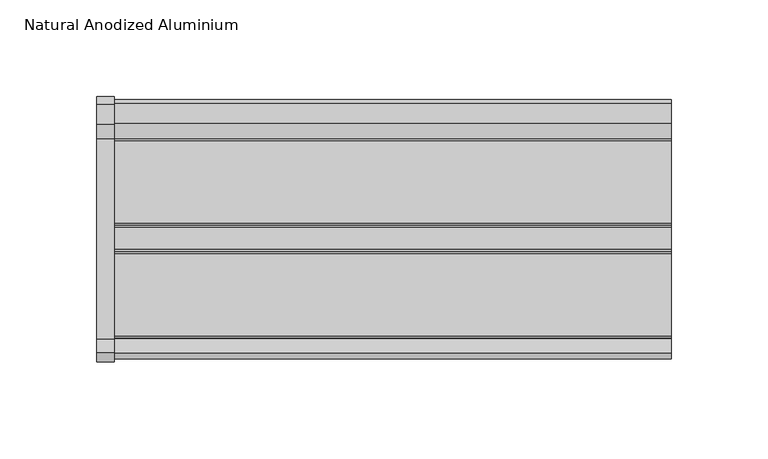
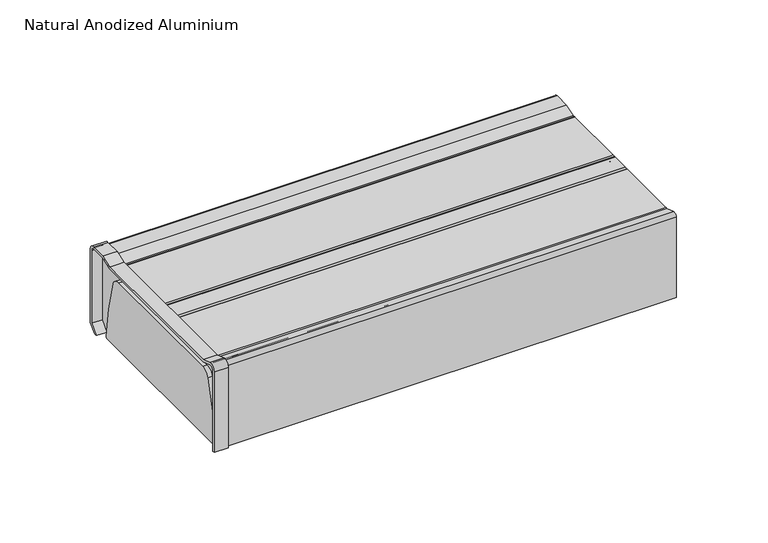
"""IFC4 building model written with IfcOpenShell, lengths in millimetres: proxy geometry, Electrical_Installations_Hager_GBA-Flat-Lid-End-Cap : Natural Anodized Aluminium."""

import ifcopenshell
import ifcopenshell.guid

model = None  # the IFC model being written
_history = None  # IfcOwnerHistory: only IFC2X3 demands one
_inside = {}  # id of a spatial element -> (the spatial element, [elements in it])
_under = {}  # id of a project, library or spatial element -> (it, [spatial elements below it])
_declared = {}  # id of a project -> (the project, [libraries it declares])
_typed = {}  # id of a type object -> (the type object, [elements of that type])
_made_of = {}  # id of a material, layer set ... -> (it, [elements and type objects made of it])


def new_model(schema):
    """Start an empty IFC model of exactly this schema.

    Asked for "IFC4X3", IfcOpenShell would pick the latest addendum, in which some entities
    have other attributes; the version numbers below select the first issue.
    IFC2X3 requires an IfcOwnerHistory on every rooted entity: one is made here for all.
    """
    global model, _history
    if schema == "IFC4X3":
        model = ifcopenshell.file(schema_version=(4, 3, 0, 0))
    else:
        model = ifcopenshell.file(schema=schema)
    _inside.clear()
    _under.clear()
    _declared.clear()
    _typed.clear()
    _made_of.clear()
    _history = None
    if model.schema == "IFC2X3":
        org = make("IfcOrganization", Name="unknown")
        user = make(
            "IfcPersonAndOrganization",
            ThePerson=make("IfcPerson", FamilyName="unknown"),
            TheOrganization=org,
        )
        app = make(
            "IfcApplication",
            ApplicationDeveloper=org,
            Version="unknown",
            ApplicationFullName="unknown",
            ApplicationIdentifier="unknown",
        )
        _history = make(
            "IfcOwnerHistory",
            OwningUser=user,
            OwningApplication=app,
            ChangeAction="ADDED",
            CreationDate=0,
        )
    return model


def make(cls, **values):
    """One entity of the class cls with the attributes given. An attribute that is None is left unset."""
    return model.create_entity(
        cls, **{name: value for name, value in values.items() if value is not None}
    )


def rooted(cls, **values):
    """An entity with a GlobalId (a new one), such as an element, a storey or a relation."""
    return make(cls, GlobalId=ifcopenshell.guid.new(), OwnerHistory=_history, **values)


def si_unit(unit_type, name, prefix=None):
    """IfcSIUnit, for example si_unit("LENGTHUNIT", "METRE", prefix="MILLI")."""
    return make("IfcSIUnit", UnitType=unit_type, Prefix=prefix, Name=name)


def assignment(units):
    """IfcUnitAssignment: the units of a project."""
    return None if units is None else make("IfcUnitAssignment", Units=units)


def point(xyz):
    """IfcCartesianPoint."""
    return None if xyz is None else make("IfcCartesianPoint", Coordinates=xyz)


def direction(xyz):
    """IfcDirection."""
    return None if xyz is None else make("IfcDirection", DirectionRatios=xyz)


def frame(location, z_axis=None, x_axis=None):
    """IfcAxis2Placement3D, a coordinate frame: its origin and axes. An axis left out is left unset."""
    return make(
        "IfcAxis2Placement3D",
        Location=point(location),
        Axis=direction(z_axis),
        RefDirection=direction(x_axis),
    )


def frame_2d(location, x_axis=None):
    """IfcAxis2Placement2D, a coordinate frame in the plane: its origin and x axis."""
    return make(
        "IfcAxis2Placement2D", Location=point(location), RefDirection=direction(x_axis)
    )


def origin():
    """The frame at (0, 0, 0) with its axes left unset."""
    return frame((0.0, 0.0, 0.0))


def place(relative_to, where):
    """IfcLocalPlacement: puts the frame where relative to a parent placement (None: the world)."""
    return make(
        "IfcLocalPlacement", PlacementRelTo=relative_to, RelativePlacement=where
    )


def context(
    kind, dimensions, precision=None, world=None, true_north=None, identifier=None
):
    """IfcGeometricRepresentationContext, for example the 3D "Model" context."""
    return make(
        "IfcGeometricRepresentationContext",
        ContextIdentifier=identifier,
        ContextType=kind,
        CoordinateSpaceDimension=dimensions,
        Precision=precision,
        WorldCoordinateSystem=world,
        TrueNorth=true_north,
    )


def project(units=None, contexts=None):
    """IfcProject with its units and contexts."""
    return rooted(
        "IfcProject",
        Name="project",
        RepresentationContexts=contexts,
        UnitsInContext=assignment(units),
    )


def spatial(cls, under=None, at=None, **own):
    """A site, building, storey or space (cls), placed at a placement, below another one or the project."""
    s = rooted(cls, ObjectPlacement=at, **own)
    if under is not None:
        _under.setdefault(under.id(), (under, []))[1].append(s)
    return s


def polyline(points):
    """IfcPolyline through the points."""
    return make("IfcPolyline", Points=[point(p) for p in points])


def circle_curve(where, radius):
    """IfcCircle in the frame where."""
    return make("IfcCircle", Position=where, Radius=radius)


def trimmed(basis, trim1, trim2, sense, master):
    """IfcTrimmedCurve: the piece of a basis curve between two trims."""
    return make(
        "IfcTrimmedCurve",
        BasisCurve=basis,
        Trim1=trim1,
        Trim2=trim2,
        SenseAgreement=sense,
        MasterRepresentation=master,
    )


def segment(curve, same_sense, transition):
    """IfcCompositeCurveSegment."""
    return make(
        "IfcCompositeCurveSegment",
        Transition=transition,
        SameSense=same_sense,
        ParentCurve=curve,
    )


def composite_curve(segments, self_intersect=None):
    """IfcCompositeCurve: segments joined end to end."""
    return make("IfcCompositeCurve", Segments=segments, SelfIntersect=self_intersect)


def outline(outer, holes=None, kind="AREA"):
    """IfcArbitraryClosedProfileDef: a profile drawn as a closed curve; with holes, ...WithVoids."""
    if holes is None:
        return make("IfcArbitraryClosedProfileDef", ProfileType=kind, OuterCurve=outer)
    return make(
        "IfcArbitraryProfileDefWithVoids",
        ProfileType=kind,
        OuterCurve=outer,
        InnerCurves=holes,
    )


def extrude(swept, where, along, depth):
    """IfcExtrudedAreaSolid: the profile swept, set in the frame where, extruded along a direction by depth."""
    return make(
        "IfcExtrudedAreaSolid",
        SweptArea=swept,
        Position=where,
        ExtrudedDirection=direction(along),
        Depth=depth,
    )


def shape(context_of_items, identifier, shape_type, items):
    """IfcShapeRepresentation: the items that make up one representation, for example the "Body"."""
    return make(
        "IfcShapeRepresentation",
        ContextOfItems=context_of_items,
        RepresentationIdentifier=identifier,
        RepresentationType=shape_type,
        Items=items,
    )


def source(mapping_origin, context_of_items, identifier, shape_type, items):
    """IfcRepresentationMap: a shape defined once, which mapped items show again and again."""
    return make(
        "IfcRepresentationMap",
        MappingOrigin=mapping_origin,
        MappedRepresentation=shape(context_of_items, identifier, shape_type, items),
    )


def transform(
    local_origin,
    x_axis=None,
    y_axis=None,
    z_axis=None,
    scale=None,
    scale2=None,
    scale3=None,
    uniform=True,
):
    """IfcCartesianTransformationOperator3D, or its non-uniform kind. x_axis, y_axis, z_axis: its Axis1, 2, 3."""
    if uniform:
        return make(
            "IfcCartesianTransformationOperator3D",
            Axis1=direction(x_axis),
            Axis2=direction(y_axis),
            LocalOrigin=point(local_origin),
            Scale=scale,
            Axis3=direction(z_axis),
        )
    return make(
        "IfcCartesianTransformationOperator3DnonUniform",
        Axis1=direction(x_axis),
        Axis2=direction(y_axis),
        LocalOrigin=point(local_origin),
        Scale=scale,
        Axis3=direction(z_axis),
        Scale2=scale2,
        Scale3=scale3,
    )


def mapped(mapping_source, mapping_target):
    """IfcMappedItem: shows the shape of a source again, moved by a transform."""
    return make(
        "IfcMappedItem", MappingSource=mapping_source, MappingTarget=mapping_target
    )


def made_of(thing, what):
    """Note that an element or type object is made of a material, layer set ...; save() writes the relation."""
    if what is not None:
        _made_of.setdefault(what.id(), (what, []))[1].append(thing)
    return thing


def element(
    cls,
    number,
    at=None,
    inside=None,
    cuts=None,
    type_object=None,
    material=None,
    context=None,
    identifier="Body",
    shape_type=None,
    held_by="IfcProductDefinitionShape",
    body=None,
    shapes=None,
    **own,
):
    """One element of the class cls, such as IfcWall. Its Tag is "e" and its number.

    at: its placement. inside: the storey or other place that contains it. cuts: it is an
    opening in that element (IfcRelVoidsElement). A single representation is given by context,
    identifier, shape_type and body (its items); several are given by shapes. held_by: the class
    of the entity that holds the representations. save() writes the other relations.
    """
    e = rooted(cls, Tag="e%d" % number, ObjectPlacement=at, **own)
    if body is not None:
        shapes = [shape(context, identifier, shape_type, body)]
    if shapes is not None:
        e.Representation = make(held_by, Representations=shapes)
    if inside is not None:
        _inside.setdefault(inside.id(), (inside, []))[1].append(e)
    if cuts is not None:
        rooted(
            "IfcRelVoidsElement", RelatingBuildingElement=cuts, RelatedOpeningElement=e
        )
    if type_object is not None:
        _typed.setdefault(type_object.id(), (type_object, []))[1].append(e)
    return made_of(e, material)


def aggregate(whole, parts):
    """IfcRelAggregates: a whole, such as a stair, and the parts it consists of."""
    return rooted("IfcRelAggregates", RelatingObject=whole, RelatedObjects=parts)


def save(model, path):
    """Write the relations noted so far, then the file.

    IfcRelAggregates (storeys below a building ...), IfcRelContainedInSpatialStructure (elements
    in a storey), IfcRelDefinesByType, IfcRelAssociatesMaterial and IfcRelDeclares: one each for
    every whole, place, type object, material and project.
    """
    for whole, parts in _under.values():
        aggregate(whole, parts)
    for where, things in _inside.values():
        rooted(
            "IfcRelContainedInSpatialStructure",
            RelatedElements=things,
            RelatingStructure=where,
        )
    for kind, things in _typed.values():
        rooted("IfcRelDefinesByType", RelatedObjects=things, RelatingType=kind)
    for what, things in _made_of.values():
        rooted("IfcRelAssociatesMaterial", RelatedObjects=things, RelatingMaterial=what)
    for by, libraries in _declared.values():
        rooted("IfcRelDeclares", RelatingContext=by, RelatedDefinitions=libraries)
    model.write(path)


def plane_surface(at):
    """IfcPlane: the flat surface through the origin of the frame at, square to its z axis."""
    return make("IfcPlane", Position=at)


def cylinder_surface(at, radius):
    """IfcCylindricalSurface: all points at the distance radius from the z axis of the frame at."""
    return make("IfcCylindricalSurface", Position=at, Radius=radius)


def revolved_surface(curve, axis_point, axis_direction):
    """IfcSurfaceOfRevolution: the curve turned about the line through axis_point along axis_direction."""
    return make(
        "IfcSurfaceOfRevolution",
        SweptCurve=make("IfcArbitraryOpenProfileDef", ProfileType="CURVE", Curve=curve),
        AxisPosition=make("IfcAxis1Placement", Location=point(axis_point), Axis=direction(axis_direction)),
    )


def advanced_brep(points, edges, surfaces, faces):
    """IfcAdvancedBrep: a solid bounded by faces that lie on surfaces and meet in shared edges.

    An edge is (start, end): straight between two places in points (the first is 0);
    or (start, end, curve); or (start, end, curve, False) where it runs against its curve.
    A face is (place in surfaces, loops), or (place, loops, False) where it looks against
    its surface's normal. A loop lists edges by number (the first is 1), with a minus sign
    where the edge is run from its end to its start. The first loop is the outer one.
    """
    corners = [point(p) for p in points]
    vertices = [make("IfcVertexPoint", VertexGeometry=c) for c in corners]
    made = []
    for start, end, *more in edges:
        made.append(
            make(
                "IfcEdgeCurve",
                EdgeStart=vertices[start],
                EdgeEnd=vertices[end],
                EdgeGeometry=more[0] if more else make("IfcPolyline", Points=[corners[start], corners[end]]),
                SameSense=more[1] if len(more) > 1 else True,
            )
        )
    hull = []
    for where, loops, *sense in faces:
        bounds = []
        for j, loop in enumerate(loops):
            ring = [make("IfcOrientedEdge", EdgeElement=made[abs(k) - 1], Orientation=k > 0) for k in loop]
            bounds.append(
                make(
                    "IfcFaceOuterBound" if j == 0 else "IfcFaceBound",
                    Bound=make("IfcEdgeLoop", EdgeList=ring),
                    Orientation=True,
                )
            )
        hull.append(make("IfcAdvancedFace", Bounds=bounds, FaceSurface=surfaces[where], SameSense=sense[0] if sense else True))
    return make("IfcAdvancedBrep", Outer=make("IfcClosedShell", CfsFaces=hull))


def natural_anodized_aluminium_1c32bed1(model_context):
    return source(origin(), model_context, "Body", "SolidModel", [
        advanced_brep(
        [(-9.0, 68.3826134, 5.0), (-9.0, 63.3826134, 0.0), (-9.0, 61.6356406, 0.0), (-9.0, 66.8826134, 5.2469728), (-9.0, 66.8826134, 54.4938306), (-9.0, 64.676444, 56.7), (-9.0, 54.5757832, 56.7), (-9.0, 46.8815743, 54.2), (-9.0, -56.974732, 54.2), (-9.0, -64.3129118, 56.5843192), (-9.0, -67.2173866, 54.4740947), (-9.0, -67.2173866, 0.0), (-9.0, -68.7173866, 0.0), (-9.0, -68.7173866, 54.4783645), (-9.0, -63.8534471, 58.0122234), (-9.0, -56.7371553, 55.7), (-9.0, 46.6439977, 55.7), (-9.0, 54.3382065, 58.2), (-9.0, 64.629095, 58.2), (-9.0, 68.3826134, 54.4464817), (0.0, 68.3826134, 5.0), (0.0, 68.3826134, 54.4464817), (0.0, 64.629095, 58.2), (0.0, 54.3382065, 58.2), (0.0, 46.6439977, 55.7), (0.0, -56.7371553, 55.7), (0.0, -63.8534471, 58.0122234), (0.0, -68.7173866, 54.4783645), (0.0, -68.7173866, 0.0), (0.0, 63.3826134, 0.0), (-2.3392846, 68.3826134, 54.4464817), (-2.3392846, 68.3826134, 5.0), (-2.3392846, 64.629095, 58.2), (-2.3392846, 54.3382065, 58.2), (-2.3392846, 46.6439977, 55.7), (-2.3392846, -56.7371553, 55.7), (-2.3392846, -63.8534471, 58.0122234), (-2.3392846, -68.7173866, 54.4783645), (-2.3392846, -67.2173866, 0.0), (-2.3392846, -62.1861095, 0.0), (-5.4994698, -62.1861095, 0.0), (-5.4994698, 55.6880142, 0.0), (-2.3392846, 55.6880142, 0.0), (-2.3392846, 61.6356406, 0.0), (-2.3392846, -67.2173866, 54.4740947), (-2.3392846, -64.3129118, 56.5843192), (-2.3392846, -56.974732, 54.2), (-2.3392846, 46.8815743, 54.2), (-2.3392846, 54.5757832, 56.7), (-2.3392846, 64.676444, 56.7), (-2.3392846, 66.8826134, 54.4938306), (-2.3392846, 66.8826134, 5.2469728), (-2.3392846, 56.7151603, 1.1074319), (-2.3392846, 49.1782923, 41.2671763), (-2.3392846, 43.4631366, 45.5), (-2.3392846, -49.8914345, 45.5), (-2.3392846, -55.5085432, 41.3237445), (-2.3392846, -63.1263922, 1.0201774), (-5.4994698, -49.8914345, 45.5), (-5.4994698, 43.4631366, 45.5), (-5.4994698, 49.1782923, 41.2671763), (-5.4994698, 56.7151603, 1.1074319), (-5.4994698, -63.1263922, 1.0201774), (-5.4994698, -55.5085432, 41.3237445)],
        [
            (0, 1),
            (1, 2),
            (2, 3),
            (3, 4),
            (4, 5, circle_curve(frame((-9.0, 64.676444, 54.4938306), z_axis=(1.0, 0.0, 0.0), x_axis=(0.0, 1.0, 0.0)), 2.2061694)),
            (5, 6),
            (6, 7),
            (7, 8),
            (8, 9),
            (9, 10, circle_curve(frame((-9.0, -64.9985653, 54.4740947), z_axis=(1.0, 0.0, 0.0), x_axis=(0.0, 1.0, 0.0)), 2.2188213)),
            (10, 11),
            (11, 12),
            (12, 13),
            (13, 14, circle_curve(frame((-9.0, -65.0016675, 54.4783645), z_axis=(-1.0, 0.0, 0.0), x_axis=(0.0, 1.0, 0.0)), 3.7157191)),
            (14, 15),
            (15, 16),
            (16, 17),
            (17, 18),
            (18, 19, circle_curve(frame((-9.0, 64.629095, 54.4464817), z_axis=(-1.0, 0.0, 0.0), x_axis=(0.0, 1.0, 0.0)), 3.7535183)),
            (19, 0),
            (20, 21),
            (21, 22, circle_curve(frame((0.0, 64.629095, 54.4464817), z_axis=(1.0, 0.0, 0.0), x_axis=(0.0, 1.0, 0.0)), 3.7535183)),
            (22, 23),
            (23, 24),
            (24, 25),
            (25, 26),
            (26, 27, circle_curve(frame((0.0, -65.0016675, 54.4783645), z_axis=(1.0, 0.0, 0.0), x_axis=(0.0, 1.0, 0.0)), 3.7157191)),
            (27, 28),
            (28, 29),
            (29, 20),
            (19, 30),
            (30, 21),
            (20, 31),
            (31, 0),
            (18, 32),
            (32, 22),
            (17, 33),
            (33, 23),
            (16, 34),
            (34, 24),
            (15, 35),
            (35, 25),
            (14, 36),
            (36, 26),
            (13, 37),
            (37, 27),
            (12, 28),
            (1, 29),
            (11, 38),
            (38, 39),
            (39, 40),
            (40, 41),
            (41, 42),
            (42, 43),
            (43, 2),
            (10, 44),
            (44, 38),
            (9, 45),
            (45, 44, circle_curve(frame((-2.3392846, -64.9985653, 54.4740947), z_axis=(1.0, 0.0, 0.0), x_axis=(0.0, 1.0, 0.0)), 2.2188213)),
            (8, 46),
            (46, 45),
            (7, 47),
            (47, 46),
            (6, 48),
            (48, 47),
            (5, 49),
            (49, 48),
            (4, 50),
            (50, 49, circle_curve(frame((-2.3392846, 64.676444, 54.4938306), z_axis=(1.0, 0.0, 0.0), x_axis=(0.0, 1.0, 0.0)), 2.2061694)),
            (3, 51),
            (51, 50),
            (43, 51),
            (42, 52, circle_curve(frame((-2.3392846, 55.6880142, 1.0300563), z_axis=(1.0, 0.0, 0.0), x_axis=(0.0, 0.0, 1.0)), 1.0300563)),
            (52, 53, circle_curve(frame((-2.3392846, -128.3197107, -12.8313689), z_axis=(1.0, 0.0, 0.0), x_axis=(0.0, 0.0, 1.0)), 185.5591379)),
            (53, 54, circle_curve(frame((-2.3392846, 43.4631366, 39.5252885), z_axis=(1.0, 0.0, 0.0), x_axis=(0.0, 0.0, 1.0)), 5.9747115)),
            (54, 55),
            (55, 56, circle_curve(frame((-2.3392846, -49.8914345, 39.6343363), z_axis=(1.0, 0.0, 0.0), x_axis=(0.0, 0.0, 1.0)), 5.8656637)),
            (56, 57, circle_curve(frame((-2.3392846, 131.2639828, -14.8501783), z_axis=(1.0, 0.0, 0.0), x_axis=(0.0, 0.0, 1.0)), 195.0371403)),
            (57, 39, circle_curve(frame((-2.3392846, -62.1861095, 0.9434111), z_axis=(1.0, 0.0, 0.0), x_axis=(0.0, 0.0, 1.0)), 0.9434111)),
            (58, 59),
            (59, 60, circle_curve(frame((-5.4994698, 43.4631366, 39.5252885), z_axis=(-1.0, 0.0, 0.0), x_axis=(0.0, 0.0, 1.0)), 5.9747115)),
            (60, 61, circle_curve(frame((-5.4994698, -128.3197107, -12.8313689), z_axis=(-1.0, 0.0, 0.0), x_axis=(0.0, 0.0, 1.0)), 185.5591379)),
            (61, 41, circle_curve(frame((-5.4994698, 55.6880142, 1.0300563), z_axis=(-1.0, 0.0, 0.0), x_axis=(0.0, 0.0, 1.0)), 1.0300563)),
            (40, 62, circle_curve(frame((-5.4994698, -62.1861095, 0.9434111), z_axis=(-1.0, 0.0, 0.0), x_axis=(0.0, 0.0, 1.0)), 0.9434111)),
            (62, 63, circle_curve(frame((-5.4994698, 131.2639828, -14.8501783), z_axis=(-1.0, 0.0, 0.0), x_axis=(0.0, 0.0, 1.0)), 195.0371403)),
            (63, 58, circle_curve(frame((-5.4994698, -49.8914345, 39.6343363), z_axis=(-1.0, 0.0, 0.0), x_axis=(0.0, 0.0, 1.0)), 5.8656637)),
            (63, 56),
            (55, 58),
            (62, 57),
            (61, 52),
            (60, 53),
            (59, 54),
        ],
        [
            plane_surface(frame((-9.0, 0.0, 0.0), z_axis=(-1.0, 0.0, 0.0), x_axis=(0.0, 0.0, 1.0))),
            plane_surface(frame((0.0, 0.0, 0.0), z_axis=(1.0, 0.0, 0.0), x_axis=(0.0, 0.0, 1.0))),
            plane_surface(frame((-9.0, 68.3826134, 54.4464817), z_axis=(0.0, 1.0, 0.0), x_axis=(1.0, 0.0, 0.0))),
            cylinder_surface(frame((-9.0, 64.629095, 54.4464817), z_axis=(-1.0, 0.0, 0.0), x_axis=(0.0, 1.0, 0.0)), 3.7535183),
            plane_surface(frame((-9.0, 54.3382065, 58.2), z_axis=(0.0, 0.0, 1.0), x_axis=(1.0, 0.0, 0.0))),
            plane_surface(frame((-9.0, 46.6439977, 55.7), z_axis=(0.0, -0.30901699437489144, 0.9510565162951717), x_axis=(1.0, 0.0, 0.0))),
            plane_surface(frame((-9.0, -56.7371553, 55.7), z_axis=(0.0, 0.0, 1.0), x_axis=(1.0, 0.0, 0.0))),
            plane_surface(frame((-9.0, -63.8534471, 58.0122234), z_axis=(0.0, 0.30901699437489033, 0.9510565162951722), x_axis=(1.0, 0.0, 0.0))),
            cylinder_surface(frame((-9.0, -65.0016675, 54.4783645), z_axis=(-1.0, 0.0, 0.0), x_axis=(0.0, 1.0, 0.0)), 3.7157191),
            plane_surface(frame((-9.0, -68.7173866, 0.0), z_axis=(0.0, -1.0, 0.0), x_axis=(1.0, 0.0, 0.0))),
            plane_surface(frame((-9.0, -67.2173866, 0.0), z_axis=(0.0, 0.0, -1.0), x_axis=(1.0, 0.0, 0.0))),
            plane_surface(frame((-9.0, -67.2173866, 54.4740947), z_axis=(0.0, 1.0, 0.0), x_axis=(1.0, 0.0, 0.0))),
            revolved_surface(polyline([(-2.3392846, -62.779743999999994, 54.4740947), (-9.0, -62.779743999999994, 54.4740947)]), (-9.0, -64.9985653, 54.4740947), (1.0, 0.0, 0.0)),
            plane_surface(frame((-9.0, -56.974732, 54.2), z_axis=(0.0, -0.3090169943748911, -0.951056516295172), x_axis=(1.0, 0.0, 0.0))),
            plane_surface(frame((-9.0, 46.8815743, 54.2), z_axis=(0.0, 0.0, -1.0), x_axis=(1.0, 0.0, 0.0))),
            plane_surface(frame((-9.0, 54.5757832, 56.7), z_axis=(0.0, 0.30901699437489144, -0.9510565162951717), x_axis=(1.0, 0.0, 0.0))),
            plane_surface(frame((-9.0, 64.676444, 56.7), z_axis=(0.0, 0.0, -1.0), x_axis=(1.0, 0.0, 0.0))),
            revolved_surface(polyline([(-2.3392846, 66.8826134, 54.4938306), (-9.0, 66.8826134, 54.4938306)]), (-9.0, 64.676444, 54.4938306), (1.0, 0.0, 0.0)),
            plane_surface(frame((-9.0, 66.8826134, 5.2469728), z_axis=(0.0, -1.0, 0.0), x_axis=(1.0, 0.0, 0.0))),
            plane_surface(frame((-9.0, 61.6356406, 0.0), z_axis=(0.0, -0.7071067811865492, 0.7071067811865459), x_axis=(1.0, 0.0, 0.0))),
            plane_surface(frame((-9.0, 68.3826134, 5.0), z_axis=(0.0, 0.7071067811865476, -0.7071067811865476), x_axis=(1.0, 0.0, 0.0))),
            plane_surface(frame((-2.3392846, -56.7371553, 55.7), z_axis=(-1.0000000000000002, 0.0, 0.0), x_axis=(0.0, 0.9510565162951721, -0.30901699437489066))),
            plane_surface(frame((-5.4994698, 43.3948324, 45.5), z_axis=(-1.0, 0.0, 0.0), x_axis=(0.0, 1.0, 0.0))),
            cylinder_surface(frame((0.0, -49.8914345, 39.6343363), z_axis=(-1.0, 0.0, 0.0), x_axis=(0.0, 0.0, 1.0)), 5.8656637),
            cylinder_surface(frame((0.0, 131.2639828, -14.8501783), z_axis=(-1.0, 0.0, 0.0), x_axis=(0.0, 0.0, 1.0)), 195.0371403),
            cylinder_surface(frame((0.0, -62.1861095, 0.9434111), z_axis=(-1.0, 0.0, 0.0), x_axis=(0.0, 0.0, 1.0)), 0.9434111),
            cylinder_surface(frame((0.0, 55.6880142, 1.0300563), z_axis=(-1.0, 0.0, 0.0), x_axis=(0.0, 0.0, 1.0)), 1.0300563),
            cylinder_surface(frame((0.0, -128.3197107, -12.8313689), z_axis=(-1.0, 0.0, 0.0), x_axis=(0.0, 0.0, 1.0)), 185.5591379),
            cylinder_surface(frame((0.0, 43.4631366, 39.5252885), z_axis=(-1.0, 0.0, 0.0), x_axis=(0.0, 0.0, 1.0)), 5.9747115),
            plane_surface(frame((-5.4994698, -49.8914345, 45.5), z_axis=(0.0, 0.0, 1.0), x_axis=(1.0, 0.0, 0.0))),
        ],
        [
            (0, [[1, 2, 3, 4, 5, 6, 7, 8, 9, 10, 11, 12, 13, 14, 15, 16, 17, 18, 19, 20]]),
            (1, [[21, 22, 23, 24, 25, 26, 27, 28, 29, 30]]),
            (2, [[-20, 31, 32, -21, 33, 34]]),
            (3, [[-19, 35, 36, -22, -32, -31]]),
            (4, [[-18, 37, 38, -23, -36, -35]]),
            (5, [[-17, 39, 40, -24, -38, -37]]),
            (6, [[-16, 41, 42, -25, -40, -39]]),
            (7, [[-15, 43, 44, -26, -42, -41]]),
            (8, [[-14, 45, 46, -27, -44, -43]]),
            (9, [[-13, 47, -28, -46, -45]]),
            (10, [[-2, 48, -29, -47, -12, 49, 50, 51, 52, 53, 54, 55]]),
            (11, [[-11, 56, 57, -49]]),
            (12, [[-10, 58, 59, -56]]),
            (13, [[-9, 60, 61, -58]]),
            (14, [[-8, 62, 63, -60]]),
            (15, [[-7, 64, 65, -62]]),
            (16, [[-6, 66, 67, -64]]),
            (17, [[-5, 68, 69, -66]]),
            (18, [[-4, 70, 71, -68]]),
            (19, [[-3, -55, 72, -70]]),
            (20, [[-1, -34, -33, -30, -48]]),
            (21, [[-57, -59, -61, -63, -65, -67, -69, -71, -72, -54, 73, 74, 75, 76, 77, 78, 79, -50]]),
            (22, [[80, 81, 82, 83, -52, 84, 85, 86]]),
            (23, [[-86, 87, -77, 88]]),
            (24, [[-85, 89, -78, -87]]),
            (25, [[-84, -51, -79, -89]]),
            (26, [[-83, 90, -73, -53]]),
            (27, [[-82, 91, -74, -90]]),
            (28, [[-81, 92, -75, -91]]),
            (29, [[-80, -88, -76, -92]]),
        ],
    ),
        extrude(outline(composite_curve([segment(polyline([(-64.6976563, 54.0894343), (-64.6976563, 2.0), (-2.2476563, 2.0), (-2.2476563, 38.3324137), (-0.2476563, 49.6749773), (-0.2476563, 52.0), (-9.8476563, 52.0), (-9.8476563, 41.5012147), (-14.5382813, 41.5012147), (-14.5382813, 45.748101), (-13.5382813, 45.748101), (-13.5382813, 42.9887147), (-11.6476563, 42.9887147), (-11.6476563, 53.0031102)]), True, "CONTINUOUS"), segment(trimmed(circle_curve(frame_2d((-10.6507665, 53.0031102)), 0.9968898), [point((-11.6476563, 53.0031102))], [point((-10.6507665, 54.0))], False, "CARTESIAN"), True, "CONTINUOUS"), segment(polyline([(-10.6507665, 54.0), (0.7441474, 54.0)]), True, "CONTINUOUS"), segment(trimmed(circle_curve(frame_2d((0.7441474, 52.9918037)), 1.0081963), [point((0.7441474, 54.0))], [point((1.7523437, 52.9918037))], False, "CARTESIAN"), True, "CONTINUOUS"), segment(polyline([(1.7523437, 52.9918037), (1.7523437, 49.5), (0.6591165, 43.3), (3.2523437, 43.3), (3.2523437, 45.7537431), (4.2523437, 45.7537431), (4.2523437, 41.5), (0.3417279, 41.5), (-0.2476563, 38.1574364), (-0.2476563, 2.0), (60.5496526, 2.0), (64.5023437, 5.9526912), (64.5023437, 54.2), (54.8614746, 54.2), (48.5523437, 52.1500391), (48.5523437, 41.5), (44.2523437, 41.5), (44.2523437, 45.7556921), (45.2523437, 45.7556921), (45.2523437, 42.9887147), (46.7523437, 42.9887147), (46.7523437, 53.9835468), (54.4971904, 56.5), (64.8989144, 56.5)]), True, "CONTINUOUS"), segment(trimmed(circle_curve(frame_2d((64.8989144, 54.5965707)), 1.9034293), [point((64.8989144, 56.5))], [point((66.8023437, 54.5965707))], False, "CARTESIAN"), True, "CONTINUOUS"), segment(polyline([(66.8023437, 54.5965707), (66.8023437, 5.0), (61.8023437, 0.0), (-66.9976563, 0.0), (-66.9976563, 54.4045249)]), True, "CONTINUOUS"), segment(trimmed(circle_curve(frame_2d((-64.9278927, 54.4045249)), 2.0697636), [point((-66.9976563, 54.4045249))], [point((-64.2989994, 56.3764312))], False, "CARTESIAN"), True, "CONTINUOUS"), segment(polyline([(-64.2989994, 56.3764312), (-56.8429688, 53.998505), (-56.8429688, 42.9887147), (-54.6789063, 42.9887147), (-54.6789063, 45.7565885), (-53.6789063, 45.7565885), (-53.6789063, 41.5012147), (-58.4476563, 41.5012147), (-58.4476563, 52.0961433), (-64.6976563, 54.0894343)]), True, "CONTINUOUS")], self_intersect=False)), frame((0.0, 0.0, 0.0), z_axis=(1.0, 0.0, 0.0), x_axis=(0.0, 1.0, 0.0)), (0.0, 0.0, 1.0), 287.5),
        extrude(outline(composite_curve([segment(polyline([(-13.1613464, 52.5816445), (-55.0613464, 52.5816445), (-55.0613464, 49.2816445), (-53.7229555, 49.2816445)]), True, "CONTINUOUS"), segment(trimmed(circle_curve(frame_2d((-53.7229555, 47.1700354)), 2.1116091), [point((-53.7229555, 49.2816445))], [point((-51.6113464, 47.1700354))], False, "CARTESIAN"), True, "CONTINUOUS"), segment(polyline([(-51.6113464, 47.1700354), (-51.6113464, 37.6816445), (-49.7113464, 37.6816445), (-49.7113464, 36.8816445), (-52.6113464, 36.8816445), (-52.6113464, 47.3262929)]), True, "CONTINUOUS"), segment(trimmed(circle_curve(frame_2d((-53.566698, 47.3262929)), 0.9553516), [point((-52.6113464, 47.3262929))], [point((-53.566698, 48.2816445))], True, "CARTESIAN"), True, "CONTINUOUS"), segment(polyline([(-53.566698, 48.2816445), (-55.3644879, 48.2816445), (-55.3644879, 43.8012242), (-56.3660339, 43.8012242), (-56.3660339, 53.0900381)]), True, "CONTINUOUS"), segment(trimmed(circle_curve(frame_2d((-55.456072, 53.0900381)), 0.9099619), [point((-56.3660339, 53.0900381))], [point((-55.456072, 54.0))], False, "CARTESIAN"), True, "CONTINUOUS"), segment(polyline([(-55.456072, 54.0), (-12.9820268, 54.0)]), True, "CONTINUOUS"), segment(trimmed(circle_curve(frame_2d((-12.9820268, 52.9918196)), 1.0081804), [point((-12.9820268, 54.0))], [point((-11.9738464, 52.9918196))], False, "CARTESIAN"), True, "CONTINUOUS"), segment(polyline([(-11.9738464, 52.9918196), (-11.9738464, 43.8012242), (-12.858205, 43.8012242), (-12.858205, 48.2816445), (-14.6025892, 48.2816445)]), True, "CONTINUOUS"), segment(trimmed(circle_curve(frame_2d((-14.6025892, 47.2728873)), 1.0087572), [point((-14.6025892, 48.2816445))], [point((-15.6113464, 47.2728873))], True, "CARTESIAN"), True, "CONTINUOUS"), segment(polyline([(-15.6113464, 47.2728873), (-15.6113464, 36.8816445), (-18.5113464, 36.8816445), (-18.5113464, 37.6816445), (-16.6113464, 37.6816445), (-16.6113464, 47.3197896)]), True, "CONTINUOUS"), segment(trimmed(circle_curve(frame_2d((-14.6494915, 47.3197896)), 1.9618549), [point((-16.6113464, 47.3197896))], [point((-14.6494915, 49.2816445))], False, "CARTESIAN"), True, "CONTINUOUS"), segment(polyline([(-14.6494915, 49.2816445), (-13.1613464, 49.2816445), (-13.1613464, 52.5816445)]), True, "CONTINUOUS")], self_intersect=False)), frame((0.0, 0.0, 0.0), z_axis=(1.0, 0.0, 0.0), x_axis=(0.0, 1.0, 0.0)), (0.0, 0.0, 1.0), 287.5),
        extrude(outline(composite_curve([segment(polyline([(45.1923672, 52.5816445), (3.2923672, 52.5816445), (3.2923672, 49.2816445), (4.6307581, 49.2816445)]), True, "CONTINUOUS"), segment(trimmed(circle_curve(frame_2d((4.6307581, 47.1700354)), 2.1116091), [point((4.6307581, 49.2816445))], [point((6.7423672, 47.1700354))], False, "CARTESIAN"), True, "CONTINUOUS"), segment(polyline([(6.7423672, 47.1700354), (6.7423672, 37.6816445), (8.6423672, 37.6816445), (8.6423672, 36.8816445), (5.7423672, 36.8816445), (5.7423672, 47.3262929)]), True, "CONTINUOUS"), segment(trimmed(circle_curve(frame_2d((4.7870156, 47.3262929)), 0.9553516), [point((5.7423672, 47.3262929))], [point((4.7870156, 48.2816445))], True, "CARTESIAN"), True, "CONTINUOUS"), segment(polyline([(4.7870156, 48.2816445), (2.9892258, 48.2816445), (2.9892258, 43.8231023), (1.9876797, 43.8231023), (1.9876797, 53.0900381)]), True, "CONTINUOUS"), segment(trimmed(circle_curve(frame_2d((2.8976417, 53.0900381)), 0.9099619), [point((1.9876797, 53.0900381))], [point((2.8976417, 54.0))], False, "CARTESIAN"), True, "CONTINUOUS"), segment(polyline([(2.8976417, 54.0), (45.3716869, 54.0)]), True, "CONTINUOUS"), segment(trimmed(circle_curve(frame_2d((45.3716869, 52.9918196)), 1.0081804), [point((45.3716869, 54.0))], [point((46.3798672, 52.9918196))], False, "CARTESIAN"), True, "CONTINUOUS"), segment(polyline([(46.3798672, 52.9918196), (46.3798672, 43.9733035), (45.4955087, 43.9733035), (45.4955087, 48.2816445), (43.7511244, 48.2816445)]), True, "CONTINUOUS"), segment(trimmed(circle_curve(frame_2d((43.7511244, 47.2728873)), 1.0087572), [point((43.7511244, 48.2816445))], [point((42.7423672, 47.2728873))], True, "CARTESIAN"), True, "CONTINUOUS"), segment(polyline([(42.7423672, 47.2728873), (42.7423672, 36.8816445), (39.8423672, 36.8816445), (39.8423672, 37.6816445), (41.7423672, 37.6816445), (41.7423672, 47.3197896)]), True, "CONTINUOUS"), segment(trimmed(circle_curve(frame_2d((43.7042221, 47.3197896)), 1.9618549), [point((41.7423672, 47.3197896))], [point((43.7042221, 49.2816445))], False, "CARTESIAN"), True, "CONTINUOUS"), segment(polyline([(43.7042221, 49.2816445), (45.1923672, 49.2816445), (45.1923672, 52.5816445)]), True, "CONTINUOUS")], self_intersect=False)), frame((0.0, 0.0, 0.0), z_axis=(1.0, 0.0, 0.0), x_axis=(0.0, 1.0, 0.0)), (0.0, 0.0, 1.0), 287.5),
    ])


if __name__ == "__main__":
    model = new_model("IFC4")
    model_context = context("Model", 3, world=origin())
    ifc_project = project(units=[si_unit("LENGTHUNIT", "METRE", prefix="MILLI")], contexts=[model_context])
    site = spatial("IfcSite", under=ifc_project)
    building = spatial("IfcBuilding", under=site)
    placement = place(None, origin())
    natural_anodized_aluminium_shape = natural_anodized_aluminium_1c32bed1(model_context)
    element("IfcBuildingElementProxy", 1, Name="Electrical_Installations_Hager_GBA-Flat-Lid-End-Cap : Natural Anodized Aluminium", ObjectType="Electrical_Installations_Hager_GBA-Flat-Lid-End-Cap : Natural Anodized Aluminium", at=placement, inside=building, context=model_context, shape_type="MappedRepresentation", body=[
        mapped(natural_anodized_aluminium_shape, transform((0.0, 0.0, 0.0), x_axis=(1.0, 0.0, 0.0), y_axis=(0.0, 1.0, 0.0), z_axis=(0.0, 0.0, 1.0))),
    ])
    save(model, "model.ifc")
